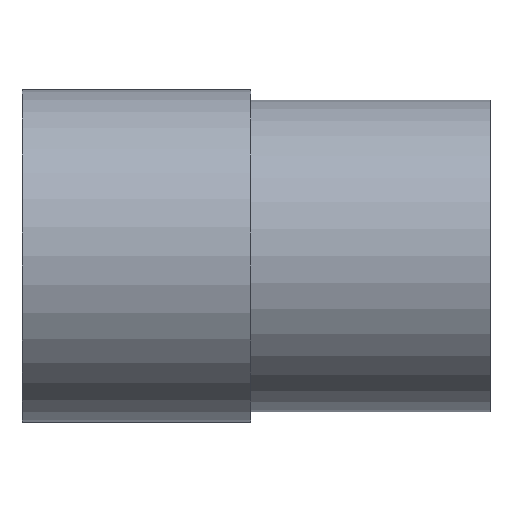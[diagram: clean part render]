
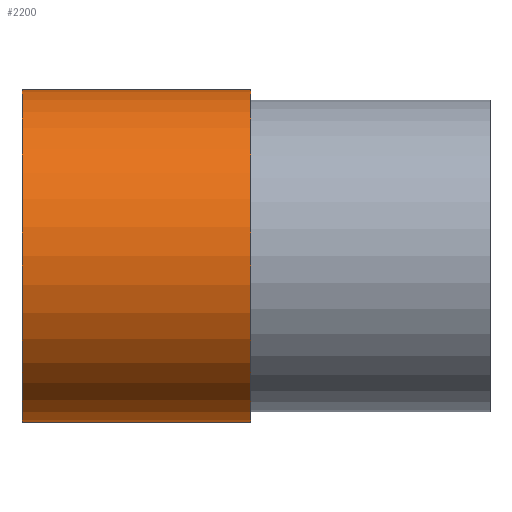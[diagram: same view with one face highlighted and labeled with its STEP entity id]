
A CAD part, top view. The second image highlights one B-rep face of the part: STEP entity #2200.
In plain terms, the highlighted cylindrical face has radius 8 mm (diameter 16 mm), a partial arc.
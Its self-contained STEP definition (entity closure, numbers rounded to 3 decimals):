
#210=CARTESIAN_POINT('',(-214.03,374.386,0.));
#220=DIRECTION('',(1.,0.,0.));
#230=DIRECTION('',(0.,1.,0.));
#240=AXIS2_PLACEMENT_3D('',#210,#220,#230);
#250=CIRCLE('',#240,8.);
#260=CARTESIAN_POINT('',(-214.03,382.386,
0.));
#270=VERTEX_POINT('',#260);
#280=CARTESIAN_POINT('',(-214.03,366.386,0.));
#290=VERTEX_POINT('',#280);
#300=EDGE_CURVE('',#270,#290,#250,.T.);
#1660=CARTESIAN_POINT('',(-203.03,374.386,0.));
#1670=DIRECTION('',(1.,0.,0.));
#1680=DIRECTION('',(0.,1.,0.));
#1690=AXIS2_PLACEMENT_3D('',#1660,#1670,#1680);
#1700=CIRCLE('',#1690,8.);
#1710=CARTESIAN_POINT('',(-203.03,382.386,
0.));
#1720=VERTEX_POINT('',#1710);
#1730=CARTESIAN_POINT('',(-203.03,366.386,0.));
#1740=VERTEX_POINT('',#1730);
#1750=EDGE_CURVE('',#1720,#1740,#1700,.T.);
#1920=CARTESIAN_POINT('',(-208.53,366.386,0.));
#1930=DIRECTION('',(1.,0.,0.));
#1940=VECTOR('',#1930,1.);
#1950=LINE('',#1920,#1940);
#1960=EDGE_CURVE('',#290,#1740,#1950,.T.);
#1990=CARTESIAN_POINT('',(-208.53,382.386,
0.));
#2000=DIRECTION('',(1.,0.,0.));
#2010=VECTOR('',#2000,1.);
#2020=LINE('',#1990,#2010);
#2030=EDGE_CURVE('',#270,#1720,#2020,.T.);
#2090=CARTESIAN_POINT('',(-208.53,374.386,0.));
#2100=DIRECTION('',(1.,0.,0.));
#2110=DIRECTION('',(0.,-1.,0.));
#2120=AXIS2_PLACEMENT_3D('',#2090,#2100,#2110);
#2130=CYLINDRICAL_SURFACE('',#2120,8.);
#2140=ORIENTED_EDGE('',*,*,#300,.T.);
#2150=ORIENTED_EDGE('',*,*,#2030,.F.);
#2160=ORIENTED_EDGE('',*,*,#1750,.F.);
#2170=ORIENTED_EDGE('',*,*,#1960,.T.);
#2180=EDGE_LOOP('',(#2170,#2160,#2150,#2140));
#2190=FACE_OUTER_BOUND('',#2180,.T.);
#2200=ADVANCED_FACE('',(#2190),#2130,.T.);
